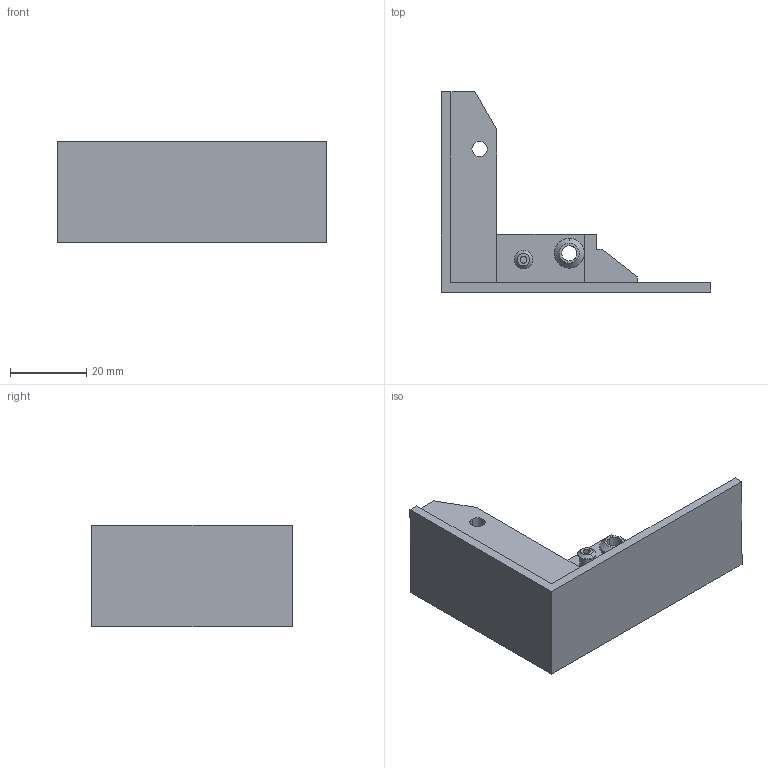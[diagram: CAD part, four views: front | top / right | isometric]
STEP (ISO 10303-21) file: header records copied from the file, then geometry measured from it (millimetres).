
FILE_DESCRIPTION (( 'STEP AP214' ), '1' );
FILE_NAME ('IMOS_Tablarhalter_vorne_LI.step', '2010-10-11T13:22:13', ( 'Grass' ), ( '' ), 'SwSTEP 2.0', 'SolidWorks 2010', '' );
FILE_SCHEMA (( 'AUTOMOTIVE_DESIGN' ));
Length unit declared in the file: millimetre
Products named in the file (1): IMOS_Tablarhalter_vorne_LI
Bounding box: 70.5 x 52.5 x 26.5 mm (x, y, z)
Volume: 15696.8 mm3; surface area: 9351.1 mm2
Topology: 1 solids, 1 shells, 44 faces, 115 edges, 75 vertices
Faces by surface type: plane 28, cylinder 12, cone 4
Entity records: 1392 total; most frequent: DIRECTION 236, CARTESIAN_POINT 235, ORIENTED_EDGE 230, EDGE_CURVE 115, VECTOR 84, LINE 84, AXIS2_PLACEMENT_3D 76, VERTEX_POINT 75
